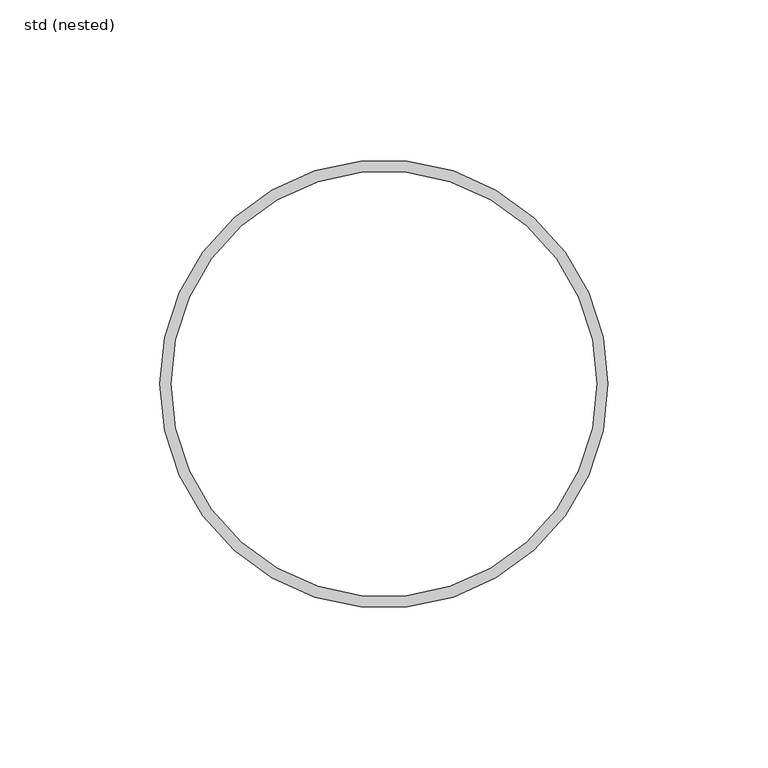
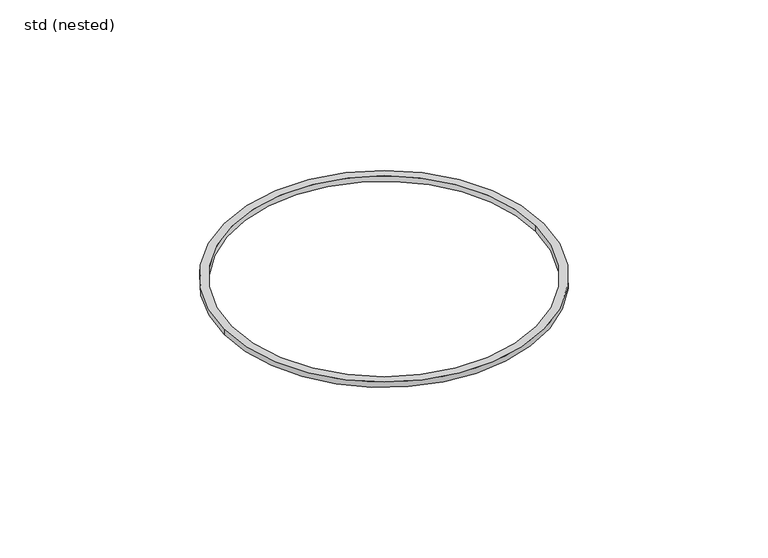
"""IFC4 building model written with IfcOpenShell, lengths in millimetres: pipe fitting geometry, ZZZ_do not use_PIF_GEN_WPB_GM-X (compound) pipe seal_ACO : std (nested)."""

from ifc_helpers import new_model, si_unit, point, origin, origin_with_axes, origin_2d, place, context, project, spatial, circle_curve, trimmed, segment, composite_curve, outline, extrude, source, transform, mapped, element, save


def std_nested_46ab66b3(model_context):
    return source(origin(), model_context, "Body", "SweptSolid", [
        extrude(outline(composite_curve([segment(trimmed(circle_curve(origin_2d(), 70.0), [point((70.0, 0.0))], [point((-70.0, 0.0))], False, "CARTESIAN"), True, "CONTINUOUS"), segment(trimmed(circle_curve(origin_2d(), 70.0), [point((-70.0, 0.0))], [point((70.0, 0.0))], False, "CARTESIAN"), True, "CONTINUOUS")], self_intersect=False), holes=[composite_curve([segment(trimmed(circle_curve(origin_2d(), 66.5), [point((66.5, 0.0))], [point((-66.5, 0.0))], True, "CARTESIAN"), True, "CONTINUOUS"), segment(trimmed(circle_curve(origin_2d(), 66.5), [point((-66.5, 0.0))], [point((66.5, 0.0))], True, "CARTESIAN"), True, "CONTINUOUS")], self_intersect=False)]), origin_with_axes(), (0.0, 0.0, 1.0), 2.5),
    ])


if __name__ == "__main__":
    model = new_model("IFC4")
    model_context = context("Model", 3, world=origin())
    ifc_project = project(units=[si_unit("LENGTHUNIT", "METRE", prefix="MILLI")], contexts=[model_context])
    site = spatial("IfcSite", under=ifc_project)
    building = spatial("IfcBuilding", under=site)
    placement = place(None, origin())
    std_nested_shape = std_nested_46ab66b3(model_context)
    element("IfcPipeFitting", 1, ObjectType="ZZZ_do not use_PIF_GEN_WPB_GM-X (compound) pipe seal_ACO : std (nested)", at=placement, inside=building, context=model_context, shape_type="MappedRepresentation", body=[
        mapped(std_nested_shape, transform((0.0, 0.0, 0.0), x_axis=(1.0, 0.0, 0.0), y_axis=(0.0, 1.0, 0.0), z_axis=(0.0, 0.0, 1.0))),
    ])
    save(model, "model.ifc")
